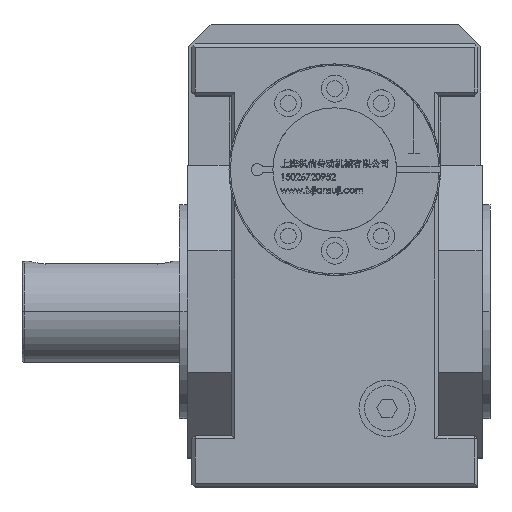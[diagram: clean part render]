
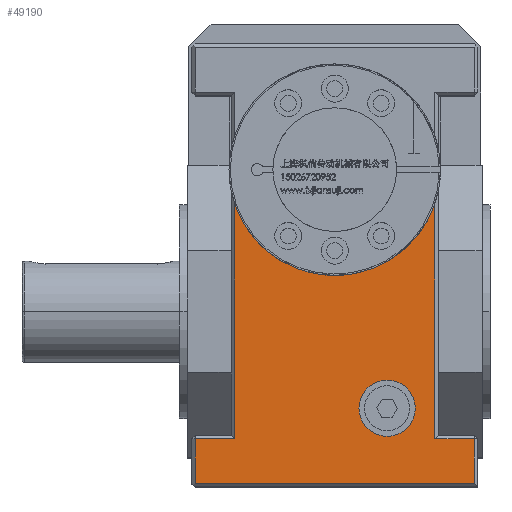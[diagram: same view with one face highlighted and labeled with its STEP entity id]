
A CAD part, top view. The second image highlights one B-rep face of the part: STEP entity #49190.
In plain terms, the highlighted planar face has unit normal (0, 0, 1).
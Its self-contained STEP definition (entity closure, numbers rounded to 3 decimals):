
#2145 = ORIENTED_EDGE ( 'NONE', *, *, #52738, .T. ) ;
#2992 = ORIENTED_EDGE ( 'NONE', *, *, #49377, .T. ) ;
#3219 = PLANE ( 'NONE',  #56533 ) ;
#6339 = CARTESIAN_POINT ( 'NONE',  ( -44.5, 47.876, 83. ) ) ;
#7675 = EDGE_CURVE ( 'NONE', #73415, #36513, #28095, .T. ) ;
#8536 = ORIENTED_EDGE ( 'NONE', *, *, #35456, .F. ) ;
#9195 = DIRECTION ( 'NONE',  ( 0., 0., 1. ) ) ;
#9275 = DIRECTION ( 'NONE',  ( 1., 0., 0. ) ) ;
#10266 = DIRECTION ( 'NONE',  ( 0., 1., 0. ) ) ;
#10352 = LINE ( 'NONE', #30107, #42720 ) ;
#11747 = EDGE_CURVE ( 'NONE', #60786, #74913, #60970, .T. ) ;
#14025 = AXIS2_PLACEMENT_3D ( 'NONE', #27808, #9195, #27414 ) ;
#14820 = VECTOR ( 'NONE', #72805, 1000. ) ;
#14831 = DIRECTION ( 'NONE',  ( 0., -1., 0. ) ) ;
#15231 = CARTESIAN_POINT ( 'NONE',  ( -62., -76.5, 83. ) ) ;
#16212 = VECTOR ( 'NONE', #14831, 1000. ) ;
#17132 = VERTEX_POINT ( 'NONE', #35335 ) ;
#22217 = FACE_OUTER_BOUND ( 'NONE', #27695, .T. ) ;
#26716 = LINE ( 'NONE', #31870, #16212 ) ;
#27414 = DIRECTION ( 'NONE',  ( 1., 0., 0. ) ) ;
#27695 = EDGE_LOOP ( 'NONE', ( #71123, #2145, #76956, #33746, #31151, #2992, #57965, #67478 ) ) ;
#27808 = CARTESIAN_POINT ( 'NONE',  ( 23.262, -43., 83. ) ) ;
#28095 = LINE ( 'NONE', #28493, #28949 ) ;
#28493 = CARTESIAN_POINT ( 'NONE',  ( 63.5, -56.5, 83. ) ) ;
#28949 = VECTOR ( 'NONE', #45515, 1000. ) ;
#29037 = CARTESIAN_POINT ( 'NONE',  ( 0., 63., 83. ) ) ;
#29253 = CARTESIAN_POINT ( 'NONE',  ( 44.5, 53.356, 83. ) ) ;
#29560 = VECTOR ( 'NONE', #52821, 1000. ) ;
#30107 = CARTESIAN_POINT ( 'NONE',  ( -44.5, -55., 83. ) ) ;
#31151 = ORIENTED_EDGE ( 'NONE', *, *, #51233, .F. ) ;
#31870 = CARTESIAN_POINT ( 'NONE',  ( -62., 119., 83. ) ) ;
#32113 = EDGE_CURVE ( 'NONE', #36513, #46631, #64462, .T. ) ;
#33746 = ORIENTED_EDGE ( 'NONE', *, *, #32113, .T. ) ;
#35335 = CARTESIAN_POINT ( 'NONE',  ( -44.5, -56.5, 83. ) ) ;
#35456 = EDGE_CURVE ( 'NONE', #53771, #71439, #56528, .T. ) ;
#36453 = CARTESIAN_POINT ( 'NONE',  ( 63.5, -76.5, 83. ) ) ;
#36513 = VERTEX_POINT ( 'NONE', #46183 ) ;
#38876 = CARTESIAN_POINT ( 'NONE',  ( 63.5, 119., 83. ) ) ;
#39372 = CARTESIAN_POINT ( 'NONE',  ( -63.5, -56.5, 83. ) ) ;
#39567 = VERTEX_POINT ( 'NONE', #41972 ) ;
#41770 = CARTESIAN_POINT ( 'NONE',  ( 10.762, -43., 83. ) ) ;
#41972 = CARTESIAN_POINT ( 'NONE',  ( -62., -56.5, 83. ) ) ;
#42720 = VECTOR ( 'NONE', #58986, 1000. ) ;
#45194 = DIRECTION ( 'NONE',  ( 0., 1., 0. ) ) ;
#45515 = DIRECTION ( 'NONE',  ( -1., 0., 0. ) ) ;
#45683 = DIRECTION ( 'NONE',  ( 0., 0., 1. ) ) ;
#46183 = CARTESIAN_POINT ( 'NONE',  ( 44.5, -56.5, 83. ) ) ;
#46631 = VERTEX_POINT ( 'NONE', #59016 ) ;
#46836 = DIRECTION ( 'NONE',  ( 0., 1., 0. ) ) ;
#47781 = VECTOR ( 'NONE', #68234, 1000. ) ;
#48307 = LINE ( 'NONE', #66086, #14820 ) ;
#48591 = CARTESIAN_POINT ( 'NONE',  ( 35.762, -43., 83. ) ) ;
#49190 = ADVANCED_FACE ( 'NONE', ( #22217, #75624 ), #3219, .F. ) ;
#49377 = EDGE_CURVE ( 'NONE', #52699, #17132, #10352, .T. ) ;
#50074 = LINE ( 'NONE', #39372, #47781 ) ;
#50222 = EDGE_CURVE ( 'NONE', #17132, #39567, #50074, .T. ) ;
#50253 = EDGE_CURVE ( 'NONE', #39567, #60786, #26716, .T. ) ;
#51233 = EDGE_CURVE ( 'NONE', #52699, #46631, #61419, .T. ) ;
#52699 = VERTEX_POINT ( 'NONE', #6339 ) ;
#52738 = EDGE_CURVE ( 'NONE', #74913, #73415, #48307, .T. ) ;
#52821 = DIRECTION ( 'NONE',  ( 1., 0., 0. ) ) ;
#53771 = VERTEX_POINT ( 'NONE', #48591 ) ;
#53872 = AXIS2_PLACEMENT_3D ( 'NONE', #29037, #65400, #46836 ) ;
#56528 = CIRCLE ( 'NONE', #72874, 12.5 ) ;
#56533 = AXIS2_PLACEMENT_3D ( 'NONE', #38876, #74842, #45194 ) ;
#57383 = VECTOR ( 'NONE', #10266, 1000. ) ;
#57469 = ORIENTED_EDGE ( 'NONE', *, *, #68703, .F. ) ;
#57965 = ORIENTED_EDGE ( 'NONE', *, *, #50222, .T. ) ;
#58986 = DIRECTION ( 'NONE',  ( 0., -1., 0. ) ) ;
#59016 = CARTESIAN_POINT ( 'NONE',  ( 44.5, 47.876, 83. ) ) ;
#60786 = VERTEX_POINT ( 'NONE', #15231 ) ;
#60970 = LINE ( 'NONE', #36453, #29560 ) ;
#61419 = CIRCLE ( 'NONE', #53872, 47. ) ;
#62031 = CIRCLE ( 'NONE', #14025, 12.5 ) ;
#63486 = CARTESIAN_POINT ( 'NONE',  ( 23.262, -43., 83. ) ) ;
#64462 = LINE ( 'NONE', #29253, #57383 ) ;
#65400 = DIRECTION ( 'NONE',  ( 0., 0., 1. ) ) ;
#66086 = CARTESIAN_POINT ( 'NONE',  ( 62., -55., 83. ) ) ;
#66368 = EDGE_LOOP ( 'NONE', ( #8536, #57469 ) ) ;
#67478 = ORIENTED_EDGE ( 'NONE', *, *, #50253, .T. ) ;
#68009 = CARTESIAN_POINT ( 'NONE',  ( 62., -76.5, 83. ) ) ;
#68234 = DIRECTION ( 'NONE',  ( -1., 0., 0. ) ) ;
#68703 = EDGE_CURVE ( 'NONE', #71439, #53771, #62031, .T. ) ;
#71123 = ORIENTED_EDGE ( 'NONE', *, *, #11747, .T. ) ;
#71439 = VERTEX_POINT ( 'NONE', #41770 ) ;
#72805 = DIRECTION ( 'NONE',  ( 0., 1., 0. ) ) ;
#72874 = AXIS2_PLACEMENT_3D ( 'NONE', #63486, #45683, #9275 ) ;
#73415 = VERTEX_POINT ( 'NONE', #78013 ) ;
#74842 = DIRECTION ( 'NONE',  ( 0., 0., -1. ) ) ;
#74913 = VERTEX_POINT ( 'NONE', #68009 ) ;
#75624 = FACE_BOUND ( 'NONE', #66368, .T. ) ;
#76956 = ORIENTED_EDGE ( 'NONE', *, *, #7675, .T. ) ;
#78013 = CARTESIAN_POINT ( 'NONE',  ( 62., -56.5, 83. ) ) ;
